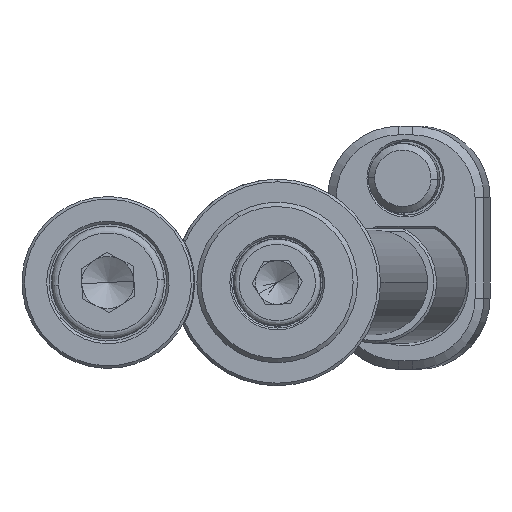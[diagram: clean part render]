
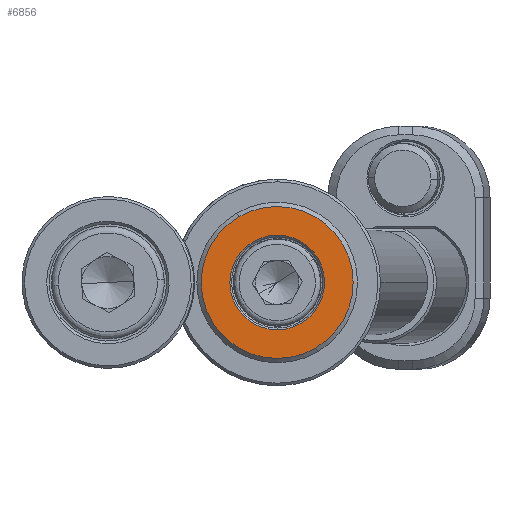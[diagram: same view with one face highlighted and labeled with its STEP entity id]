
A CAD part, front view. The second image highlights one B-rep face of the part: STEP entity #6856.
In plain terms, the highlighted planar face has unit normal (0, -1, 0).
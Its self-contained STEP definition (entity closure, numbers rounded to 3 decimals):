
#19 = FACE_OUTER_BOUND ( 'NONE', #8471, .T. ) ;
#99 = DIRECTION ( 'NONE',  ( 0., 1., 0. ) ) ;
#772 = CIRCLE ( 'NONE', #13554, 5.45 ) ;
#1179 = DIRECTION ( 'NONE',  ( 0., -1., 0. ) ) ;
#1739 = ORIENTED_EDGE ( 'NONE', *, *, #13941, .T. ) ;
#2073 = VERTEX_POINT ( 'NONE', #3699 ) ;
#2776 = VERTEX_POINT ( 'NONE', #9643 ) ;
#3039 = ORIENTED_EDGE ( 'NONE', *, *, #6275, .T. ) ;
#3618 = VERTEX_POINT ( 'NONE', #7158 ) ;
#3626 = CARTESIAN_POINT ( 'NONE',  ( 0., -4., 0. ) ) ;
#3699 = CARTESIAN_POINT ( 'NONE',  ( 4.42, -4., -7.552 ) ) ;
#4072 = CIRCLE ( 'NONE', #13130, 8.75 ) ;
#4175 = DIRECTION ( 'NONE',  ( -0.505, 0., 0.863 ) ) ;
#4576 = CARTESIAN_POINT ( 'NONE',  ( 0., -4., 0. ) ) ;
#5349 = CIRCLE ( 'NONE', #9305, 8.75 ) ;
#5552 = EDGE_CURVE ( 'NONE', #3618, #9712, #772, .T. ) ;
#5670 = DIRECTION ( 'NONE',  ( 0., 1., 0. ) ) ;
#6275 = EDGE_CURVE ( 'NONE', #2776, #2073, #4072, .T. ) ;
#6297 = AXIS2_PLACEMENT_3D ( 'NONE', #10565, #13863, #8373 ) ;
#6660 = FACE_BOUND ( 'NONE', #8395, .T. ) ;
#6856 = ADVANCED_FACE ( 'NONE', ( #6660, #19 ), #14330, .F. ) ;
#7158 = CARTESIAN_POINT ( 'NONE',  ( 2.753, -4., -4.704 ) ) ;
#7225 = CIRCLE ( 'NONE', #6297, 5.45 ) ;
#8373 = DIRECTION ( 'NONE',  ( -0.505, 0., 0.863 ) ) ;
#8395 = EDGE_LOOP ( 'NONE', ( #9617, #1739 ) ) ;
#8471 = EDGE_LOOP ( 'NONE', ( #3039, #10664 ) ) ;
#8838 = CARTESIAN_POINT ( 'NONE',  ( -4.531, -4., -2.652 ) ) ;
#9305 = AXIS2_PLACEMENT_3D ( 'NONE', #9725, #14114, #4175 ) ;
#9617 = ORIENTED_EDGE ( 'NONE', *, *, #5552, .T. ) ;
#9643 = CARTESIAN_POINT ( 'NONE',  ( -4.42, -4., 7.552 ) ) ;
#9712 = VERTEX_POINT ( 'NONE', #12922 ) ;
#9725 = CARTESIAN_POINT ( 'NONE',  ( 0., -4., 0. ) ) ;
#10124 = AXIS2_PLACEMENT_3D ( 'NONE', #8838, #99, #13256 ) ;
#10239 = DIRECTION ( 'NONE',  ( -0.505, 0., 0.863 ) ) ;
#10565 = CARTESIAN_POINT ( 'NONE',  ( 0., -4., 0. ) ) ;
#10664 = ORIENTED_EDGE ( 'NONE', *, *, #13607, .T. ) ;
#12635 = DIRECTION ( 'NONE',  ( -0.505, 0., 0.863 ) ) ;
#12922 = CARTESIAN_POINT ( 'NONE',  ( -2.753, -4., 4.704 ) ) ;
#13130 = AXIS2_PLACEMENT_3D ( 'NONE', #3626, #1179, #12635 ) ;
#13256 = DIRECTION ( 'NONE',  ( -0.505, 0., 0.863 ) ) ;
#13554 = AXIS2_PLACEMENT_3D ( 'NONE', #4576, #5670, #10239 ) ;
#13607 = EDGE_CURVE ( 'NONE', #2073, #2776, #5349, .T. ) ;
#13863 = DIRECTION ( 'NONE',  ( 0., 1., 0. ) ) ;
#13941 = EDGE_CURVE ( 'NONE', #9712, #3618, #7225, .T. ) ;
#14114 = DIRECTION ( 'NONE',  ( 0., -1., 0. ) ) ;
#14330 = PLANE ( 'NONE',  #10124 ) ;
